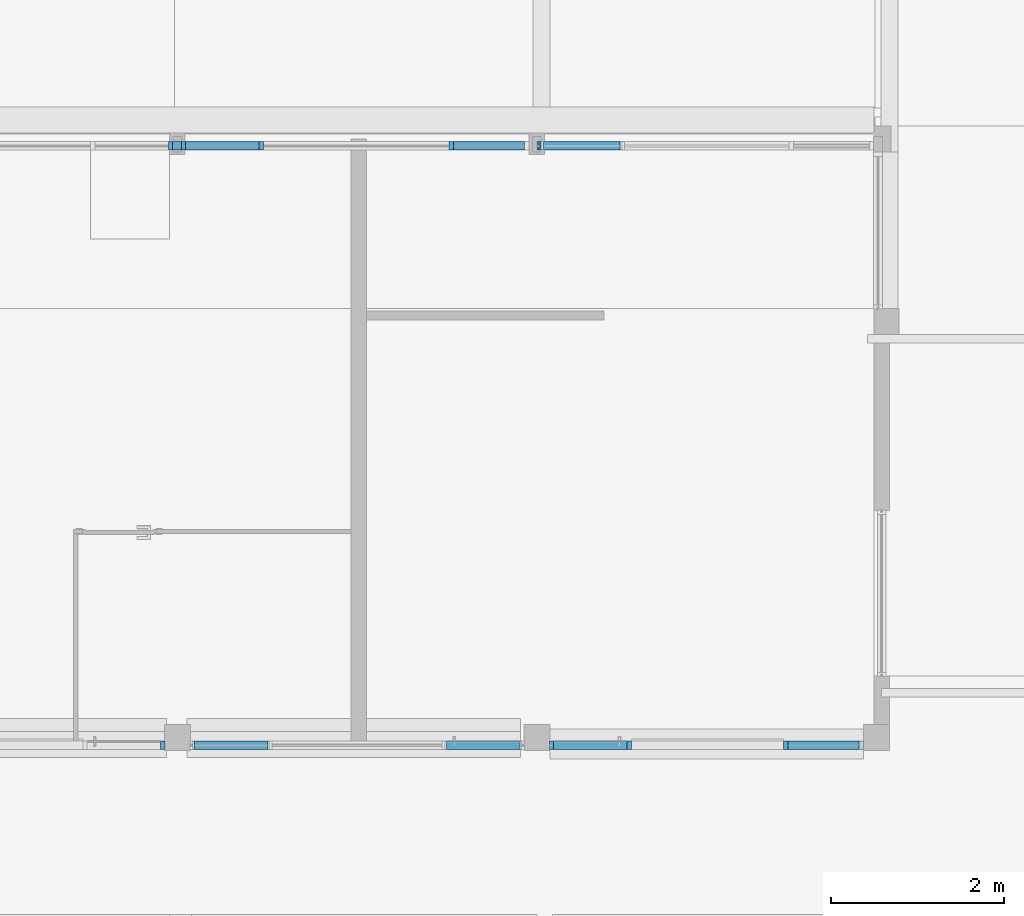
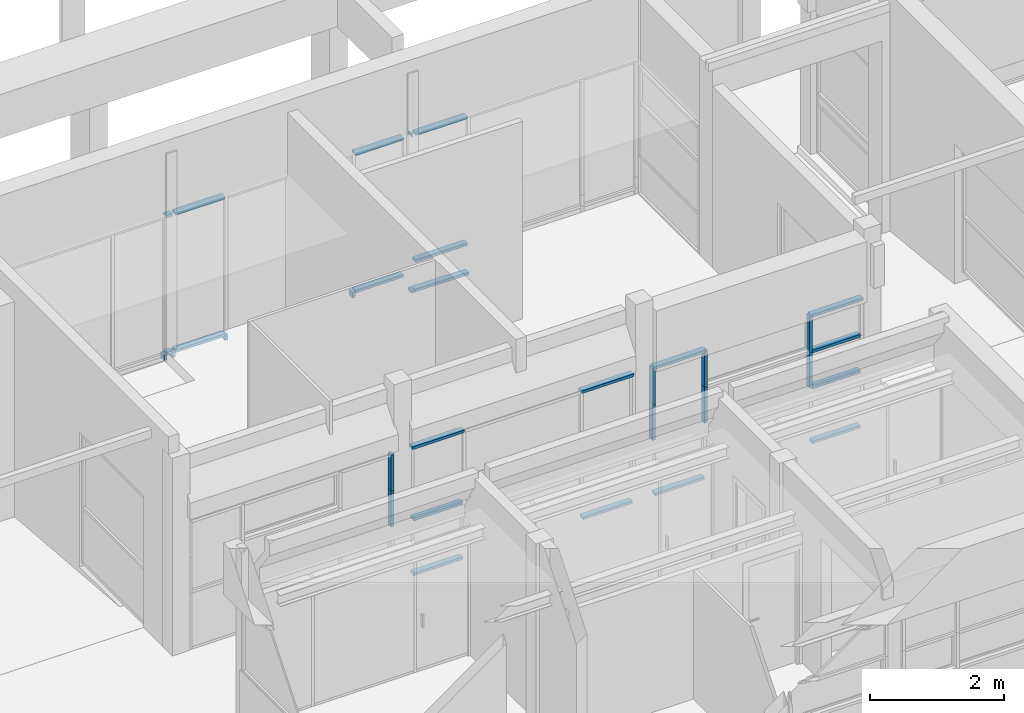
# One storey, part 25 of 117: 34 members, 5 elements without a shape of their own.
"""IFC4 building model written with IfcOpenShell, lengths in metres."""

from ifc_helpers import new_model, entity, si_unit, converted_unit, derived_unit, direction, frame, origin, place, context, subcontext, project, spatial, indexed_curve, outline, extrude, source, transform, mapped, material, type_object, type_shapes, element, aggregate, save


model = new_model("IFC4")

# Units and contexts
model_context = context("Model", 3, precision=1e-05, world=origin(), true_north=direction((6.123031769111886e-17, 1.0)))
body_context = subcontext(model_context, "Body", "Model", "MODEL_VIEW")
ifc_project = project(units=[si_unit("LENGTHUNIT", "METRE"), si_unit("AREAUNIT", "SQUARE_METRE"), si_unit("VOLUMEUNIT", "CUBIC_METRE"), converted_unit("PLANEANGLEUNIT", "DEGREE", entity("IfcRatioMeasure", 0.017453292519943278), si_unit("PLANEANGLEUNIT", "RADIAN"), dimensions=[0, 0, 0, 0, 0, 0, 0]), si_unit("MASSUNIT", "GRAM", prefix="KILO"), derived_unit("MASSDENSITYUNIT", [(si_unit("MASSUNIT", "GRAM", prefix="KILO"), 1), (si_unit("LENGTHUNIT", "METRE"), -3)]), derived_unit("MOMENTOFINERTIAUNIT", [(si_unit("LENGTHUNIT", "METRE"), 4)]), si_unit("TIMEUNIT", "SECOND"), si_unit("FREQUENCYUNIT", "HERTZ"), si_unit("THERMODYNAMICTEMPERATUREUNIT", "DEGREE_CELSIUS"), derived_unit("THERMALTRANSMITTANCEUNIT", [(si_unit("MASSUNIT", "GRAM", prefix="KILO"), 1), (si_unit("THERMODYNAMICTEMPERATUREUNIT", "KELVIN"), -1), (si_unit("TIMEUNIT", "SECOND"), -3)]), derived_unit("VOLUMETRICFLOWRATEUNIT", [(si_unit("LENGTHUNIT", "METRE"), 3), (si_unit("TIMEUNIT", "SECOND"), -1)]), derived_unit("MASSFLOWRATEUNIT", [(si_unit("MASSUNIT", "GRAM", prefix="KILO"), 1), (si_unit("TIMEUNIT", "SECOND"), -1)]), derived_unit("ROTATIONALFREQUENCYUNIT", [(si_unit("TIMEUNIT", "SECOND"), -1)]), si_unit("ELECTRICCURRENTUNIT", "AMPERE"), si_unit("ELECTRICVOLTAGEUNIT", "VOLT"), si_unit("POWERUNIT", "WATT"), si_unit("FORCEUNIT", "NEWTON", prefix="KILO"), si_unit("ILLUMINANCEUNIT", "LUX"), si_unit("LUMINOUSFLUXUNIT", "LUMEN"), si_unit("LUMINOUSINTENSITYUNIT", "CANDELA"), derived_unit("USERDEFINED", [(si_unit("MASSUNIT", "GRAM", prefix="KILO"), -1), (si_unit("LENGTHUNIT", "METRE"), -2), (si_unit("TIMEUNIT", "SECOND"), 3), (si_unit("LUMINOUSFLUXUNIT", "LUMEN"), 1)]), derived_unit("SOUNDPOWERUNIT", [(si_unit("MASSUNIT", "GRAM", prefix="KILO"), 1), (si_unit("LENGTHUNIT", "METRE"), 2), (si_unit("TIMEUNIT", "SECOND"), -3)]), derived_unit("SOUNDPRESSUREUNIT", [(si_unit("MASSUNIT", "GRAM", prefix="KILO"), 1), (si_unit("LENGTHUNIT", "METRE"), -1), (si_unit("TIMEUNIT", "SECOND"), -2)]), derived_unit("LINEARVELOCITYUNIT", [(si_unit("LENGTHUNIT", "METRE"), 1), (si_unit("TIMEUNIT", "SECOND"), -1)]), si_unit("PRESSUREUNIT", "PASCAL"), derived_unit("USERDEFINED", [(si_unit("LENGTHUNIT", "METRE"), -2), (si_unit("MASSUNIT", "GRAM", prefix="KILO"), 1), (si_unit("TIMEUNIT", "SECOND"), -2)]), derived_unit("LINEARFORCEUNIT", [(si_unit("MASSUNIT", "GRAM", prefix="KILO"), 1), (si_unit("LENGTHUNIT", "METRE"), 1), (si_unit("TIMEUNIT", "SECOND"), -2), (si_unit("LENGTHUNIT", "METRE"), -1)]), derived_unit("PLANARFORCEUNIT", [(si_unit("MASSUNIT", "GRAM", prefix="KILO"), 1), (si_unit("LENGTHUNIT", "METRE"), 1), (si_unit("TIMEUNIT", "SECOND"), -2), (si_unit("LENGTHUNIT", "METRE"), -2)])], contexts=[model_context])

# Site, building, storey
site_placement = place(None, origin())
site = spatial("IfcSite", under=ifc_project, at=site_placement, Name="Superficie", CompositionType="ELEMENT")
building_placement = place(site_placement, origin())
building = spatial("IfcBuilding", under=site, at=building_placement, CompositionType="ELEMENT")
storey_placement = place(building_placement, origin())
storey = spatial("IfcBuildingStorey", under=building, at=storey_placement, Name="Nivel 0", CompositionType="ELEMENT", Elevation=0.0)

# Curtain wall, member
curtain_wall_type = type_object("IfcCurtainWallType", Name="Muro cortina:Muro cortina - simple", PredefinedType="NOTDEFINED")
curtain_wall_1_placement = place(storey_placement, origin())
curtain_wall_1 = element("IfcCurtainWall", 1, at=curtain_wall_1_placement, inside=storey, type_object=curtain_wall_type, Name="Muro cortina:Muro cortina - simple", ObjectType="Muro cortina:Muro cortina - simple", PredefinedType="NOTDEFINED")
ifc_material = material(Name="<Unnamed>")
member_type_1 = type_object("IfcMemberType", Name="Montante rectangular:Montante rectangular - 5 x 10 cm", PredefinedType="MULLION", material=ifc_material)
shared_shape_1 = source(origin(), body_context, "Body", "SweptSolid", [
    extrude(outline(indexed_curve([(-0.05, -0.025), (0.05, -0.025), (0.05, 0.025), (-0.05, 0.025), (-0.05, -0.025)], self_intersect=False)), frame((-0.025, 0.0, -0.8500000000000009), z_axis=(0.0, 0.0, 1.0), x_axis=(0.0, -1.0, 0.0)), (0.0, 0.0, 1.0), 0.849999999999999),
])
type_shapes(member_type_1, [shared_shape_1])
member_1_placement = place(curtain_wall_1_placement, frame((4.8265520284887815, 12.654548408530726, 2.44), z_axis=(-1.0, 0.0, 0.0), x_axis=(0.0, 0.0, 1.0)))
member_1 = element("IfcMember", 2, at=member_1_placement, type_object=member_type_1, material=ifc_material, Name="Montante rectangular:Montante rectangular - 5 x 10 cm", ObjectType="Montante rectangular:Montante rectangular - 5 x 10 cm", PredefinedType="MULLION", context=body_context, shape_type="MappedRepresentation", body=[
    mapped(shared_shape_1, transform((0.0, 0.0, 0.0), scale=1.0)),
])

curtain_wall_2_placement = place(storey_placement, origin())
curtain_wall_2 = element("IfcCurtainWall", 3, at=curtain_wall_2_placement, inside=storey, type_object=curtain_wall_type, Name="Muro cortina:Muro cortina - simple", ObjectType="Muro cortina:Muro cortina - simple", PredefinedType="NOTDEFINED")
member_type_2 = type_object("IfcMemberType", Name="Montante rectangular:Montante rectangular - 5 x 10 cm", PredefinedType="MULLION", material=ifc_material)
shared_shape_2 = source(origin(), body_context, "Body", "SweptSolid", [
    extrude(outline(indexed_curve([(-0.05, -0.025), (0.05, -0.025), (0.05, 0.025), (-0.05, 0.025), (-0.05, -0.025)], self_intersect=False)), frame((0.0, 0.0, -0.8500000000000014), z_axis=(0.0, 0.0, 1.0), x_axis=(0.0, -1.0, 0.0)), (0.0, 0.0, 1.0), 0.849999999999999),
])
type_shapes(member_type_2, [shared_shape_2])
member_2_placement = place(curtain_wall_2_placement, frame((9.936552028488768, 5.716739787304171, 0.019999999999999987), z_axis=(1.0, 0.0, 0.0), x_axis=(0.0, 0.0, 1.0)))
member_2 = element("IfcMember", 4, at=member_2_placement, type_object=member_type_2, material=ifc_material, Name="Montante rectangular:Montante rectangular - 5 x 10 cm", ObjectType="Montante rectangular:Montante rectangular - 5 x 10 cm", PredefinedType="MULLION", context=body_context, shape_type="MappedRepresentation", body=[
    mapped(shared_shape_2, transform((0.0, 0.0, 0.0), scale=1.0)),
])

# Curtain wall, members
curtain_wall_3_placement = place(storey_placement, origin())
curtain_wall_3 = element("IfcCurtainWall", 5, at=curtain_wall_3_placement, inside=storey, type_object=curtain_wall_type, Name="Muro cortina:Muro cortina - simple", ObjectType="Muro cortina:Muro cortina - simple", PredefinedType="NOTDEFINED")
member_3_placement = place(curtain_wall_3_placement, frame((5.776552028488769, 5.716739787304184, 0.019999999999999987), z_axis=(1.0, 0.0, 0.0), x_axis=(0.0, 0.0, 1.0)))
member_3 = element("IfcMember", 6, at=member_3_placement, type_object=member_type_2, material=ifc_material, Name="Montante rectangular:Montante rectangular - 5 x 10 cm", ObjectType="Montante rectangular:Montante rectangular - 5 x 10 cm", PredefinedType="MULLION", context=body_context, shape_type="MappedRepresentation", body=[
    mapped(shared_shape_2, transform((0.0, 0.0, 0.0), scale=1.0)),
])
member_4_placement = place(curtain_wall_3_placement, frame((8.69655202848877, 5.716739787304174, 0.019999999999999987), z_axis=(1.0, 0.0, 0.0), x_axis=(0.0, 0.0, 1.0)))
member_4 = element("IfcMember", 7, at=member_4_placement, type_object=member_type_2, material=ifc_material, Name="Montante rectangular:Montante rectangular - 5 x 10 cm", ObjectType="Montante rectangular:Montante rectangular - 5 x 10 cm", PredefinedType="MULLION", context=body_context, shape_type="MappedRepresentation", body=[
    mapped(shared_shape_2, transform((0.0, 0.0, 0.0), scale=1.0)),
])
member_5_placement = place(curtain_wall_3_placement, frame((5.776552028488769, 5.716739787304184, 1.0199999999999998), z_axis=(1.0, 0.0, 0.0), x_axis=(0.0, 0.0, 1.0)))
member_5 = element("IfcMember", 8, at=member_5_placement, type_object=member_type_2, material=ifc_material, Name="Montante rectangular:Montante rectangular - 5 x 10 cm", ObjectType="Montante rectangular:Montante rectangular - 5 x 10 cm", PredefinedType="MULLION", context=body_context, shape_type="MappedRepresentation", body=[
    mapped(shared_shape_2, transform((0.0, 0.0, 0.0), scale=1.0)),
])

# Member
member_6_placement = place(curtain_wall_1_placement, frame((4.8265520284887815, 12.654548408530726, -0.08647709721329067), z_axis=(-1.0, 0.0, 0.0), x_axis=(0.0, 0.0, 1.0)))
member_6 = element("IfcMember", 9, at=member_6_placement, type_object=member_type_2, material=ifc_material, Name="Montante rectangular:Montante rectangular - 5 x 10 cm", ObjectType="Montante rectangular:Montante rectangular - 5 x 10 cm", PredefinedType="MULLION", context=body_context, shape_type="MappedRepresentation", body=[
    mapped(shared_shape_2, transform((0.0, 0.0, 0.0), scale=1.0)),
])

member_type_3 = type_object("IfcMemberType", Name="Montante rectangular:Montante rectangular - 5 x 10 cm", PredefinedType="MULLION", material=ifc_material)
shared_shape_3 = source(origin(), body_context, "Body", "SweptSolid", [
    extrude(outline(indexed_curve([(-0.05, -0.025), (0.05, -0.025), (0.05, 0.025), (-0.05, 0.025), (-0.05, -0.025)], self_intersect=False)), frame((-0.025, 0.0, -0.8249999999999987), z_axis=(0.0, 0.0, 1.0), x_axis=(0.0, -1.0, 0.0)), (0.0, 0.0, 1.0), 0.824999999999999),
])
type_shapes(member_type_3, [shared_shape_3])
member_7_placement = place(curtain_wall_1_placement, frame((7.926552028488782, 12.654548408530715, 2.44), z_axis=(-1.0, 0.0, 0.0), x_axis=(0.0, 0.0, 1.0)))
member_7 = element("IfcMember", 10, at=member_7_placement, type_object=member_type_3, material=ifc_material, Name="Montante rectangular:Montante rectangular - 5 x 10 cm", ObjectType="Montante rectangular:Montante rectangular - 5 x 10 cm", PredefinedType="MULLION", context=body_context, shape_type="MappedRepresentation", body=[
    mapped(shared_shape_3, transform((0.0, 0.0, 0.0), scale=1.0)),
])

member_type_4 = type_object("IfcMemberType", Name="Montante rectangular:Montante rectangular - 5 x 10 cm", PredefinedType="MULLION", material=ifc_material)
shared_shape_4 = source(origin(), body_context, "Body", "SweptSolid", [
    extrude(outline(indexed_curve([(-0.05, -0.025), (0.05, -0.025), (0.05, 0.025), (-0.05, 0.025), (-0.05, -0.025)], self_intersect=False)), frame((0.0, 0.0, -0.8250000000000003), z_axis=(0.0, 0.0, 1.0), x_axis=(0.0, -1.0, 0.0)), (0.0, 0.0, 1.0), 0.8249999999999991),
])
type_shapes(member_type_4, [shared_shape_4])
member_8_placement = place(curtain_wall_2_placement, frame((12.621799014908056, 5.716739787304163, 0.019999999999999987), z_axis=(1.0, 0.0, 0.0), x_axis=(0.0, 0.0, 1.0)))
member_8 = element("IfcMember", 11, at=member_8_placement, type_object=member_type_4, material=ifc_material, Name="Montante rectangular:Montante rectangular - 5 x 10 cm", ObjectType="Montante rectangular:Montante rectangular - 5 x 10 cm", PredefinedType="MULLION", context=body_context, shape_type="MappedRepresentation", body=[
    mapped(shared_shape_4, transform((0.0, 0.0, 0.0), scale=1.0)),
])

member_9_placement = place(curtain_wall_2_placement, frame((12.621799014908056, 5.716739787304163, 1.0199999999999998), z_axis=(1.0, 0.0, 0.0), x_axis=(0.0, 0.0, 1.0)))
member_9 = element("IfcMember", 12, at=member_9_placement, type_object=member_type_4, material=ifc_material, Name="Montante rectangular:Montante rectangular - 5 x 10 cm", ObjectType="Montante rectangular:Montante rectangular - 5 x 10 cm", PredefinedType="MULLION", context=body_context, shape_type="MappedRepresentation", body=[
    mapped(shared_shape_4, transform((0.0, 0.0, 0.0), scale=1.0)),
])

member_10_placement = place(curtain_wall_2_placement, frame((12.621799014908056, 5.716739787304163, 1.6749999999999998), z_axis=(1.0, 0.0, 0.0), x_axis=(0.0, 0.0, 1.0)))
member_10 = element("IfcMember", 13, at=member_10_placement, type_object=member_type_4, material=ifc_material, Name="Montante rectangular:Montante rectangular - 5 x 10 cm", ObjectType="Montante rectangular:Montante rectangular - 5 x 10 cm", PredefinedType="MULLION", context=body_context, shape_type="MappedRepresentation", body=[
    mapped(shared_shape_4, transform((0.0, 0.0, 0.0), scale=1.0)),
])

member_11_placement = place(curtain_wall_1_placement, frame((7.926552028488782, 12.654548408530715, -0.08647709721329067), z_axis=(-1.0, 0.0, 0.0), x_axis=(0.0, 0.0, 1.0)))
member_11 = element("IfcMember", 14, at=member_11_placement, type_object=member_type_4, material=ifc_material, Name="Montante rectangular:Montante rectangular - 5 x 10 cm", ObjectType="Montante rectangular:Montante rectangular - 5 x 10 cm", PredefinedType="MULLION", context=body_context, shape_type="MappedRepresentation", body=[
    mapped(shared_shape_4, transform((0.0, 0.0, 0.0), scale=1.0)),
])

member_type_5 = type_object("IfcMemberType", Name="Montante rectangular:Montante rectangular - 5 x 10 cm", PredefinedType="MULLION", material=ifc_material)
shared_shape_5 = source(origin(), body_context, "Body", "SweptSolid", [
    extrude(outline(indexed_curve([(-0.05, -0.025), (0.05, -0.025), (0.05, 0.025), (-0.05, 0.025), (-0.05, -0.025)], self_intersect=False)), frame((-0.025, 0.0, -0.9000000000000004), z_axis=(0.0, 0.0, 1.0), x_axis=(0.0, -1.0, 0.0)), (0.0, 0.0, 1.0), 0.9),
])
type_shapes(member_type_5, [shared_shape_5])
member_12_placement = place(curtain_wall_2_placement, frame((12.671799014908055, 5.716739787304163, 2.35), z_axis=(1.0, 0.0, 0.0), x_axis=(0.0, 0.0, 1.0)))
member_12 = element("IfcMember", 15, at=member_12_placement, type_object=member_type_5, material=ifc_material, Name="Montante rectangular:Montante rectangular - 5 x 10 cm", ObjectType="Montante rectangular:Montante rectangular - 5 x 10 cm", PredefinedType="MULLION", context=body_context, shape_type="MappedRepresentation", body=[
    mapped(shared_shape_5, transform((0.0, 0.0, 0.0), scale=1.0)),
])

member_13_placement = place(curtain_wall_3_placement, frame((8.72155202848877, 5.716739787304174, 2.35), z_axis=(1.0, 0.0, 0.0), x_axis=(0.0, 0.0, 1.0)))
member_13 = element("IfcMember", 16, at=member_13_placement, type_object=member_type_5, material=ifc_material, Name="Montante rectangular:Montante rectangular - 5 x 10 cm", ObjectType="Montante rectangular:Montante rectangular - 5 x 10 cm", PredefinedType="MULLION", context=body_context, shape_type="MappedRepresentation", body=[
    mapped(shared_shape_5, transform((0.0, 0.0, 0.0), scale=1.0)),
])

member_type_6 = type_object("IfcMemberType", Name="Montante rectangular:Montante rectangular - 5 x 10 cm", PredefinedType="MULLION", material=ifc_material)
shared_shape_6 = source(origin(), body_context, "Body", "SweptSolid", [
    extrude(outline(indexed_curve([(-0.05, -0.025), (0.05, -0.025), (0.05, 0.025), (-0.05, 0.025), (-0.05, -0.025)], self_intersect=False)), frame((-0.025, 0.0, -0.8999999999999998), z_axis=(0.0, 0.0, 1.0), x_axis=(0.0, -1.0, 0.0)), (0.0, 0.0, 1.0), 0.8999999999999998),
])
type_shapes(member_type_6, [shared_shape_6])
member_14_placement = place(curtain_wall_2_placement, frame((9.961552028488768, 5.716739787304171, 2.35), z_axis=(1.0, 0.0, 0.0), x_axis=(0.0, 0.0, 1.0)))
member_14 = element("IfcMember", 17, at=member_14_placement, type_object=member_type_6, material=ifc_material, Name="Montante rectangular:Montante rectangular - 5 x 10 cm", ObjectType="Montante rectangular:Montante rectangular - 5 x 10 cm", PredefinedType="MULLION", context=body_context, shape_type="MappedRepresentation", body=[
    mapped(shared_shape_6, transform((0.0, 0.0, 0.0), scale=1.0)),
])

member_15_placement = place(curtain_wall_3_placement, frame((5.801552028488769, 5.716739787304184, 2.35), z_axis=(1.0, 0.0, 0.0), x_axis=(0.0, 0.0, 1.0)))
member_15 = element("IfcMember", 18, at=member_15_placement, type_object=member_type_6, material=ifc_material, Name="Montante rectangular:Montante rectangular - 5 x 10 cm", ObjectType="Montante rectangular:Montante rectangular - 5 x 10 cm", PredefinedType="MULLION", context=body_context, shape_type="MappedRepresentation", body=[
    mapped(shared_shape_6, transform((0.0, 0.0, 0.0), scale=1.0)),
])

aggregate(curtain_wall_3, [member_13, member_3, member_4, member_15, member_5])

# Curtain wall, member
curtain_wall_4_placement = place(storey_placement, origin())
curtain_wall_4 = element("IfcCurtainWall", 19, at=curtain_wall_4_placement, inside=storey, type_object=curtain_wall_type, Name="Muro cortina:Muro cortina - simple", ObjectType="Muro cortina:Muro cortina - simple", PredefinedType="NOTDEFINED")
member_type_7 = type_object("IfcMemberType", Name="Montante rectangular:Montante rectangular - 5 x 10 cm", PredefinedType="MULLION", material=ifc_material)
shared_shape_7 = source(origin(), body_context, "Body", "SweptSolid", [
    extrude(outline(indexed_curve([(-0.05, -0.025), (0.05, -0.025), (0.05, 0.025), (-0.05, 0.025), (-0.05, -0.025)], self_intersect=False)), frame((0.0, 0.0, -0.655), z_axis=(0.0, 0.0, 1.0), x_axis=(0.0, -1.0, 0.0)), (0.0, 0.0, 1.0), 0.655),
])
type_shapes(member_type_7, [shared_shape_7])
member_16_placement = place(curtain_wall_4_placement, frame((4.561552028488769, 5.7167397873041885, 1.0199999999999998), z_axis=(0.0, 0.0, -1.0), x_axis=(1.0, 0.0, 0.0)))
member_16 = element("IfcMember", 20, at=member_16_placement, type_object=member_type_7, material=ifc_material, Name="Montante rectangular:Montante rectangular - 5 x 10 cm", ObjectType="Montante rectangular:Montante rectangular - 5 x 10 cm", PredefinedType="MULLION", context=body_context, shape_type="MappedRepresentation", body=[
    mapped(shared_shape_7, transform((0.0, 0.0, 0.0), scale=1.0)),
])

# Member
member_17_placement = place(curtain_wall_2_placement, frame((9.06155202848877, 5.716739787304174, 1.0199999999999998), z_axis=(0.0, 0.0, -1.0), x_axis=(1.0, 0.0, 0.0)))
member_17 = element("IfcMember", 21, at=member_17_placement, type_object=member_type_7, material=ifc_material, Name="Montante rectangular:Montante rectangular - 5 x 10 cm", ObjectType="Montante rectangular:Montante rectangular - 5 x 10 cm", PredefinedType="MULLION", context=body_context, shape_type="MappedRepresentation", body=[
    mapped(shared_shape_7, transform((0.0, 0.0, 0.0), scale=1.0)),
])

member_type_8 = type_object("IfcMemberType", Name="Montante rectangular:Montante rectangular - 5 x 10 cm", PredefinedType="MULLION", material=ifc_material)
shared_shape_8 = source(origin(), body_context, "Body", "SweptSolid", [
    extrude(outline(indexed_curve([(-0.05, -0.025), (0.05, -0.025), (0.05, 0.025), (-0.05, 0.025), (-0.05, -0.025)], self_intersect=False)), frame((0.0, 0.0, -0.655), z_axis=(0.0, 0.0, 1.0), x_axis=(0.0, -1.0, 0.0)), (0.0, 0.0, 1.0), 0.655),
])
type_shapes(member_type_8, [shared_shape_8])
member_18_placement = place(curtain_wall_2_placement, frame((9.961552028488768, 5.716739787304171, 1.0199999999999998), z_axis=(0.0, 0.0, -1.0), x_axis=(1.0, 0.0, 0.0)))
member_18 = element("IfcMember", 22, at=member_18_placement, type_object=member_type_8, material=ifc_material, Name="Montante rectangular:Montante rectangular - 5 x 10 cm", ObjectType="Montante rectangular:Montante rectangular - 5 x 10 cm", PredefinedType="MULLION", context=body_context, shape_type="MappedRepresentation", body=[
    mapped(shared_shape_8, transform((0.0, 0.0, 0.0), scale=1.0)),
])

member_19_placement = place(curtain_wall_2_placement, frame((11.771799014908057, 5.7167397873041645, 1.0199999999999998), z_axis=(0.0, 0.0, -1.0), x_axis=(1.0, 0.0, 0.0)))
member_19 = element("IfcMember", 23, at=member_19_placement, type_object=member_type_8, material=ifc_material, Name="Montante rectangular:Montante rectangular - 5 x 10 cm", ObjectType="Montante rectangular:Montante rectangular - 5 x 10 cm", PredefinedType="MULLION", context=body_context, shape_type="MappedRepresentation", body=[
    mapped(shared_shape_8, transform((0.0, 0.0, 0.0), scale=1.0)),
])

member_type_9 = type_object("IfcMemberType", Name="Montante rectangular:Montante rectangular - 5 x 10 cm", PredefinedType="MULLION", material=ifc_material)
shared_shape_9 = source(origin(), body_context, "Body", "SweptSolid", [
    extrude(outline(indexed_curve([(-0.05, -0.025), (0.05, -0.025), (0.05, 0.025), (-0.05, 0.025), (-0.05, -0.025)], self_intersect=False)), frame((0.0, 0.0, -0.655), z_axis=(0.0, 0.0, 1.0), x_axis=(0.0, -1.0, 0.0)), (0.0, 0.0, 1.0), 0.655),
])
type_shapes(member_type_9, [shared_shape_9])
member_20_placement = place(curtain_wall_4_placement, frame((4.56155202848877, 5.7167397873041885, 1.6749999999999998), z_axis=(0.0, 0.0, -1.0), x_axis=(1.0, 0.0, 0.0)))
member_20 = element("IfcMember", 24, at=member_20_placement, type_object=member_type_9, material=ifc_material, Name="Montante rectangular:Montante rectangular - 5 x 10 cm", ObjectType="Montante rectangular:Montante rectangular - 5 x 10 cm", PredefinedType="MULLION", context=body_context, shape_type="MappedRepresentation", body=[
    mapped(shared_shape_9, transform((0.0, 0.0, 0.0), scale=1.0)),
])

aggregate(curtain_wall_4, [member_16, member_20])

member_21_placement = place(curtain_wall_2_placement, frame((9.06155202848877, 5.716739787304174, 1.6749999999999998), z_axis=(0.0, 0.0, -1.0), x_axis=(1.0, 0.0, 0.0)))
member_21 = element("IfcMember", 25, at=member_21_placement, type_object=member_type_9, material=ifc_material, Name="Montante rectangular:Montante rectangular - 5 x 10 cm", ObjectType="Montante rectangular:Montante rectangular - 5 x 10 cm", PredefinedType="MULLION", context=body_context, shape_type="MappedRepresentation", body=[
    mapped(shared_shape_9, transform((0.0, 0.0, 0.0), scale=1.0)),
])

member_type_10 = type_object("IfcMemberType", Name="Montante rectangular:Montante rectangular - 5 x 10 cm", PredefinedType="MULLION", material=ifc_material)
shared_shape_10 = source(origin(), body_context, "Body", "SweptSolid", [
    extrude(outline(indexed_curve([(-0.05, -0.025), (0.05, -0.025), (0.05, 0.025), (-0.05, 0.025), (-0.05, -0.025)], self_intersect=False)), frame((0.0, 0.0, -0.655), z_axis=(0.0, 0.0, 1.0), x_axis=(0.0, -1.0, 0.0)), (0.0, 0.0, 1.0), 0.655),
])
type_shapes(member_type_10, [shared_shape_10])
member_22_placement = place(curtain_wall_2_placement, frame((9.961552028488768, 5.716739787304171, 1.6749999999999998), z_axis=(0.0, 0.0, -1.0), x_axis=(1.0, 0.0, 0.0)))
member_22 = element("IfcMember", 26, at=member_22_placement, type_object=member_type_10, material=ifc_material, Name="Montante rectangular:Montante rectangular - 5 x 10 cm", ObjectType="Montante rectangular:Montante rectangular - 5 x 10 cm", PredefinedType="MULLION", context=body_context, shape_type="MappedRepresentation", body=[
    mapped(shared_shape_10, transform((0.0, 0.0, 0.0), scale=1.0)),
])

member_23_placement = place(curtain_wall_2_placement, frame((11.771799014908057, 5.7167397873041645, 1.6749999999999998), z_axis=(0.0, 0.0, -1.0), x_axis=(1.0, 0.0, 0.0)))
member_23 = element("IfcMember", 27, at=member_23_placement, type_object=member_type_10, material=ifc_material, Name="Montante rectangular:Montante rectangular - 5 x 10 cm", ObjectType="Montante rectangular:Montante rectangular - 5 x 10 cm", PredefinedType="MULLION", context=body_context, shape_type="MappedRepresentation", body=[
    mapped(shared_shape_10, transform((0.0, 0.0, 0.0), scale=1.0)),
])

aggregate(curtain_wall_2, [member_2, member_8, member_14, member_17, member_18, member_9, member_21, member_22, member_12, member_10, member_23, member_19])

# Curtain wall, members
curtain_wall_5_placement = place(storey_placement, origin())
curtain_wall_5 = element("IfcCurtainWall", 28, at=curtain_wall_5_placement, inside=storey, type_object=curtain_wall_type, Name="Muro cortina:Muro cortina - simple", ObjectType="Muro cortina:Muro cortina - simple", PredefinedType="NOTDEFINED")
member_type_11 = type_object("IfcMemberType", Name="Montante rectangular:Montante rectangular - 5 x 10 cm", PredefinedType="MULLION", material=ifc_material)
shared_shape_11 = source(origin(), body_context, "Body", "SweptSolid", [
    extrude(outline(indexed_curve([(-0.05, -0.025), (0.05, -0.025), (0.05, 0.025), (-0.05, 0.025), (-0.05, -0.025)], self_intersect=False)), frame((0.0, 0.0, -0.8900000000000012), z_axis=(0.0, 0.0, 1.0), x_axis=(0.0, -1.0, 0.0)), (0.0, 0.0, 1.0), 0.8900000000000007),
])
type_shapes(member_type_11, [shared_shape_11])
member_24_placement = place(curtain_wall_5_placement, frame((8.966552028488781, 12.654548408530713, 0.10429380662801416), z_axis=(-1.0, 0.0, 0.0), x_axis=(0.0, 0.0, 1.0)))
member_24 = element("IfcMember", 29, at=member_24_placement, type_object=member_type_11, material=ifc_material, Name="Montante rectangular:Montante rectangular - 5 x 10 cm", ObjectType="Montante rectangular:Montante rectangular - 5 x 10 cm", PredefinedType="MULLION", context=body_context, shape_type="MappedRepresentation", body=[
    mapped(shared_shape_11, transform((0.0, 0.0, 0.0), scale=1.0)),
])
member_type_12 = type_object("IfcMemberType", Name="Montante rectangular:Montante rectangular - 5 x 10 cm", PredefinedType="MULLION", material=ifc_material)
shared_shape_12 = source(origin(), body_context, "Body", "SweptSolid", [
    extrude(outline(indexed_curve([(-0.05, -0.025), (0.05, -0.025), (0.05, 0.025), (-0.05, 0.025), (-0.05, -0.025)], self_intersect=False)), frame((-0.025, 0.0, -0.9400886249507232), z_axis=(0.0, 0.0, 1.0), x_axis=(0.0, -1.0, 0.0)), (0.0, 0.0, 1.0), 0.9400886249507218),
])
type_shapes(member_type_12, [shared_shape_12])
member_25_placement = place(curtain_wall_5_placement, frame((9.88155202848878, 12.654548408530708, -0.4625224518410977), z_axis=(0.999905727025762, 0.0, -0.013730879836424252), x_axis=(-0.013730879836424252, 0.0, -0.999905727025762)))
member_25 = element("IfcMember", 30, at=member_25_placement, type_object=member_type_12, material=ifc_material, Name="Montante rectangular:Montante rectangular - 5 x 10 cm", ObjectType="Montante rectangular:Montante rectangular - 5 x 10 cm", PredefinedType="MULLION", context=body_context, shape_type="MappedRepresentation", body=[
    mapped(shared_shape_12, transform((0.0, 0.0, 0.0), scale=1.0)),
])
member_type_13 = type_object("IfcMemberType", Name="Montante rectangular:Montante rectangular - 5 x 10 cm", PredefinedType="MULLION", material=ifc_material)
shared_shape_13 = source(origin(), body_context, "Body", "SweptSolid", [
    extrude(outline(indexed_curve([(-0.05, -0.025), (0.05, -0.025), (0.05, 0.025), (-0.05, 0.025), (-0.05, -0.025)], self_intersect=False)), frame((-0.025, 0.0, -0.050004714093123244), z_axis=(0.0, 0.0, 1.0), x_axis=(0.0, -1.0, 0.0)), (0.0, 0.0, 1.0), 0.050004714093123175),
])
type_shapes(member_type_13, [shared_shape_13])
member_26_placement = place(curtain_wall_5_placement, frame((8.941552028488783, 12.654548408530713, -0.44961420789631), z_axis=(0.999905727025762, 0.0, -0.013730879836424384), x_axis=(-0.013730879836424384, 0.0, -0.999905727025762)))
member_26 = element("IfcMember", 31, at=member_26_placement, type_object=member_type_13, material=ifc_material, Name="Montante rectangular:Montante rectangular - 5 x 10 cm", ObjectType="Montante rectangular:Montante rectangular - 5 x 10 cm", PredefinedType="MULLION", context=body_context, shape_type="MappedRepresentation", body=[
    mapped(shared_shape_13, transform((0.0, 0.0, 0.0), scale=1.0)),
])
member_type_14 = type_object("IfcMemberType", Name="Montante rectangular:Montante rectangular - 5 x 10 cm", PredefinedType="MULLION", material=ifc_material)
shared_shape_14 = source(origin(), body_context, "Body", "SweptSolid", [
    extrude(outline(indexed_curve([(-0.05, -0.025), (0.05, -0.025), (0.05, 0.025), (-0.05, 0.025), (-0.05, -0.025)], self_intersect=False)), frame((-0.025, 0.0, -0.8900000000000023), z_axis=(0.0, 0.0, 1.0), x_axis=(0.0, -1.0, 0.0)), (0.0, 0.0, 1.0), 0.8900000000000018),
])
type_shapes(member_type_14, [shared_shape_14])
member_27_placement = place(curtain_wall_5_placement, frame((8.966552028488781, 12.654548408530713, 2.44), z_axis=(-1.0, 0.0, 0.0), x_axis=(0.0, 0.0, 1.0)))
member_27 = element("IfcMember", 32, at=member_27_placement, type_object=member_type_14, material=ifc_material, Name="Montante rectangular:Montante rectangular - 5 x 10 cm", ObjectType="Montante rectangular:Montante rectangular - 5 x 10 cm", PredefinedType="MULLION", context=body_context, shape_type="MappedRepresentation", body=[
    mapped(shared_shape_14, transform((0.0, 0.0, 0.0), scale=1.0)),
])
member_type_15 = type_object("IfcMemberType", Name="Montante rectangular:Montante rectangular - 5 x 10 cm", PredefinedType="MULLION", material=ifc_material)
shared_shape_15 = source(origin(), body_context, "Body", "SweptSolid", [
    extrude(outline(indexed_curve([(-0.05, -0.025), (0.05, -0.025), (0.05, 0.025), (-0.05, 0.025), (-0.05, -0.025)], self_intersect=False)), frame((-0.025, 0.0, -0.02499999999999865), z_axis=(0.0, 0.0, 1.0), x_axis=(0.0, -1.0, 0.0)), (0.0, 0.0, 1.0), 0.02499999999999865),
])
type_shapes(member_type_15, [shared_shape_15])
member_28_placement = place(curtain_wall_5_placement, frame((8.891552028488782, 12.654548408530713, 2.44), z_axis=(-1.0, 0.0, 0.0), x_axis=(0.0, 0.0, 1.0)))
member_28 = element("IfcMember", 33, at=member_28_placement, type_object=member_type_15, material=ifc_material, Name="Montante rectangular:Montante rectangular - 5 x 10 cm", ObjectType="Montante rectangular:Montante rectangular - 5 x 10 cm", PredefinedType="MULLION", context=body_context, shape_type="MappedRepresentation", body=[
    mapped(shared_shape_15, transform((0.0, 0.0, 0.0), scale=1.0)),
])
aggregate(curtain_wall_5, [member_24, member_25, member_26, member_27, member_28])

# Member
member_type_16 = type_object("IfcMemberType", Name="Montante rectangular:Montante rectangular - 5 x 10 cm", PredefinedType="MULLION", material=ifc_material)
shared_shape_16 = source(origin(), body_context, "Body", "SweptSolid", [
    extrude(outline(indexed_curve([(-0.05, -0.025), (0.05, -0.025), (0.05, 0.025), (-0.05, 0.025), (-0.05, -0.025)], self_intersect=False)), frame((0.0, 0.0, -0.10097316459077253), z_axis=(0.0, 0.0, 1.0), x_axis=(0.0, -1.0, 0.0)), (0.0, 0.0, 1.0), 0.10097316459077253),
])
type_shapes(member_type_16, [shared_shape_16])
member_29_placement = place(curtain_wall_1_placement, frame((5.701552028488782, 12.654548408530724, -0.1874502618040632), z_axis=(0.0, 0.0, -1.0), x_axis=(-1.0, 0.0, 0.0)))
member_29 = element("IfcMember", 34, at=member_29_placement, type_object=member_type_16, material=ifc_material, Name="Montante rectangular:Montante rectangular - 5 x 10 cm", ObjectType="Montante rectangular:Montante rectangular - 5 x 10 cm", PredefinedType="MULLION", context=body_context, shape_type="MappedRepresentation", body=[
    mapped(shared_shape_16, transform((0.0, 0.0, 0.0), scale=1.0)),
])

member_30_placement = place(curtain_wall_1_placement, frame((7.901552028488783, 12.654548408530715, -0.1874502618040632), z_axis=(0.0, 0.0, -1.0), x_axis=(-1.0, 0.0, 0.0)))
member_30 = element("IfcMember", 35, at=member_30_placement, type_object=member_type_16, material=ifc_material, Name="Montante rectangular:Montante rectangular - 5 x 10 cm", ObjectType="Montante rectangular:Montante rectangular - 5 x 10 cm", PredefinedType="MULLION", context=body_context, shape_type="MappedRepresentation", body=[
    mapped(shared_shape_16, transform((0.0, 0.0, 0.0), scale=1.0)),
])

member_31_placement = place(curtain_wall_1_placement, frame((4.801552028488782, 12.654548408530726, -0.1874502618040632), z_axis=(0.0, 0.0, -1.0), x_axis=(-1.0, 0.0, 0.0)))
member_31 = element("IfcMember", 36, at=member_31_placement, type_object=member_type_16, material=ifc_material, Name="Montante rectangular:Montante rectangular - 5 x 10 cm", ObjectType="Montante rectangular:Montante rectangular - 5 x 10 cm", PredefinedType="MULLION", context=body_context, shape_type="MappedRepresentation", body=[
    mapped(shared_shape_16, transform((0.0, 0.0, 0.0), scale=1.0)),
])

member_32_placement = place(curtain_wall_1_placement, frame((4.651552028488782, 12.654548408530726, -0.1874502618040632), z_axis=(0.0, 0.0, -1.0), x_axis=(-1.0, 0.0, 0.0)))
member_32 = element("IfcMember", 37, at=member_32_placement, type_object=member_type_16, material=ifc_material, Name="Montante rectangular:Montante rectangular - 5 x 10 cm", ObjectType="Montante rectangular:Montante rectangular - 5 x 10 cm", PredefinedType="MULLION", context=body_context, shape_type="MappedRepresentation", body=[
    mapped(shared_shape_16, transform((0.0, 0.0, 0.0), scale=1.0)),
])

member_type_17 = type_object("IfcMemberType", Name="Montante rectangular:Montante rectangular - 5 x 10 cm", PredefinedType="MULLION", material=ifc_material)
shared_shape_17 = source(origin(), body_context, "Body", "SweptSolid", [
    extrude(outline(indexed_curve([(-0.05, -0.025), (0.05, -0.025), (0.05, 0.025), (-0.05, 0.025), (-0.05, -0.025)], self_intersect=False)), frame((0.0, 0.0, -0.09999999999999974), z_axis=(0.0, 0.0, 1.0), x_axis=(0.0, -1.0, 0.0)), (0.0, 0.0, 1.0), 0.1),
])
type_shapes(member_type_17, [shared_shape_17])
member_33_placement = place(curtain_wall_1_placement, frame((4.676552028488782, 12.654548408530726, -0.08647709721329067), z_axis=(-1.0, 0.0, 0.0), x_axis=(0.0, 0.0, 1.0)))
member_33 = element("IfcMember", 38, at=member_33_placement, type_object=member_type_17, material=ifc_material, Name="Montante rectangular:Montante rectangular - 5 x 10 cm", ObjectType="Montante rectangular:Montante rectangular - 5 x 10 cm", PredefinedType="MULLION", context=body_context, shape_type="MappedRepresentation", body=[
    mapped(shared_shape_17, transform((0.0, 0.0, 0.0), scale=1.0)),
])

member_type_18 = type_object("IfcMemberType", Name="Montante rectangular:Montante rectangular - 5 x 10 cm", PredefinedType="MULLION", material=ifc_material)
shared_shape_18 = source(origin(), body_context, "Body", "SweptSolid", [
    extrude(outline(indexed_curve([(-0.05, -0.025), (0.05, -0.025), (0.05, 0.025), (-0.05, 0.025), (-0.05, -0.025)], self_intersect=False)), frame((-0.025, 0.0, -0.1), z_axis=(0.0, 0.0, 1.0), x_axis=(0.0, -1.0, 0.0)), (0.0, 0.0, 1.0), 0.1),
])
type_shapes(member_type_18, [shared_shape_18])
member_34_placement = place(curtain_wall_1_placement, frame((4.676552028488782, 12.654548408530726, 2.44), z_axis=(-1.0, 0.0, 0.0), x_axis=(0.0, 0.0, 1.0)))
member_34 = element("IfcMember", 39, at=member_34_placement, type_object=member_type_18, material=ifc_material, Name="Montante rectangular:Montante rectangular - 5 x 10 cm", ObjectType="Montante rectangular:Montante rectangular - 5 x 10 cm", PredefinedType="MULLION", context=body_context, shape_type="MappedRepresentation", body=[
    mapped(shared_shape_18, transform((0.0, 0.0, 0.0), scale=1.0)),
])

aggregate(curtain_wall_1, [member_11, member_7, member_6, member_29, member_30, member_1, member_33, member_31, member_34, member_32])

save(model, "model.ifc")
